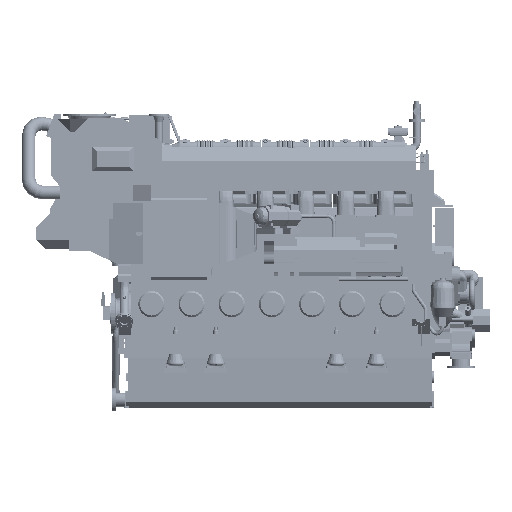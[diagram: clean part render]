
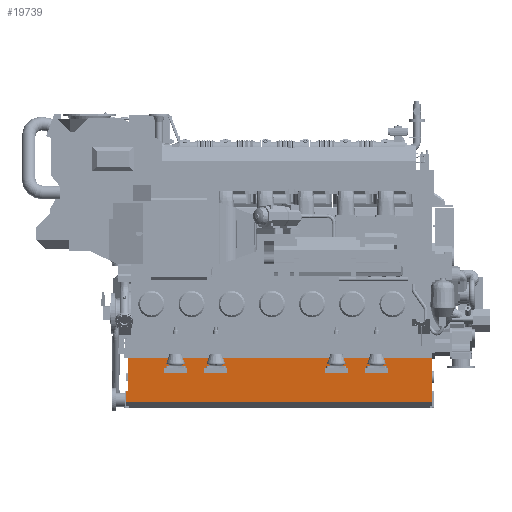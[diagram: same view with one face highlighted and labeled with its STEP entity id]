
A CAD part, front view. The second image highlights one B-rep face of the part: STEP entity #19739.
In plain terms, the highlighted planar face has unit normal (0, -0.999, -0.052).
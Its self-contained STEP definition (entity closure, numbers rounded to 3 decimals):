
#12578=FACE_OUTER_BOUND('',#62940,.T.);
#19739=ADVANCED_FACE('',(#12578),#28264,.T.);
#28264=PLANE('',#152563);
#33223=LINE('',#205550,#46311);
#33244=LINE('',#205618,#46332);
#33262=LINE('',#205663,#46350);
#33280=LINE('',#205724,#46368);
#33289=LINE('',#205740,#46377);
#33290=LINE('',#205741,#46378);
#46311=VECTOR('',#165733,1.);
#46332=VECTOR('',#165780,1.);
#46350=VECTOR('',#165808,1.);
#46368=VECTOR('',#165854,1.);
#46377=VECTOR('',#165869,1.);
#46378=VECTOR('',#165870,1.);
#62940=EDGE_LOOP('',(#73776,#73777,#73778,#73779,#73780,#73781));
#73776=ORIENTED_EDGE('',*,*,#127889,.F.);
#73777=ORIENTED_EDGE('',*,*,#127984,.F.);
#73778=ORIENTED_EDGE('',*,*,#127922,.T.);
#73779=ORIENTED_EDGE('',*,*,#127975,.T.);
#73780=ORIENTED_EDGE('',*,*,#127944,.F.);
#73781=ORIENTED_EDGE('',*,*,#127985,.F.);
#114265=VERTEX_POINT('',#205551);
#114266=VERTEX_POINT('',#205552);
#114298=VERTEX_POINT('',#205617);
#114299=VERTEX_POINT('',#205619);
#114309=VERTEX_POINT('',#205641);
#114320=VERTEX_POINT('',#205662);
#127889=EDGE_CURVE('',#114265,#114266,#33223,.T.);
#127922=EDGE_CURVE('',#114299,#114298,#33244,.T.);
#127944=EDGE_CURVE('',#114320,#114309,#33262,.T.);
#127975=EDGE_CURVE('',#114298,#114309,#33280,.T.);
#127984=EDGE_CURVE('',#114299,#114265,#33289,.T.);
#127985=EDGE_CURVE('',#114266,#114320,#33290,.T.);
#152563=AXIS2_PLACEMENT_3D('',#205742,#165871,#165872);
#165733=DIRECTION('',(0.,-0.052,0.999));
#165780=DIRECTION('',(0.,0.052,-0.999));
#165808=DIRECTION('',(0.,0.052,-0.999));
#165854=DIRECTION('',(1.,0.,0.));
#165869=DIRECTION('',(1.,0.,0.));
#165870=DIRECTION('',(1.,0.,0.));
#165871=DIRECTION('',(0.,-0.999,-0.052));
#165872=DIRECTION('',(0.,0.052,-0.999));
#205550=CARTESIAN_POINT('',(-3710.,-438.25,-545.));
#205551=CARTESIAN_POINT('',(-3710.,-417.179,-950.));
#205552=CARTESIAN_POINT('',(-3710.,-438.25,-545.));
#205617=CARTESIAN_POINT('',(-3730.,-410.5,-1078.395));
#205618=CARTESIAN_POINT('',(-3730.,-438.25,-545.));
#205619=CARTESIAN_POINT('',(-3730.,-417.179,-950.));
#205641=CARTESIAN_POINT('',(0.,-410.5,-1078.395));
#205662=CARTESIAN_POINT('',(0.,-438.25,-545.));
#205663=CARTESIAN_POINT('',(0.,-438.25,-545.));
#205724=CARTESIAN_POINT('',(-3730.,-410.5,-1078.395));
#205740=CARTESIAN_POINT('',(-3730.,-417.179,-950.));
#205741=CARTESIAN_POINT('',(-3730.,-438.25,-545.));
#205742=CARTESIAN_POINT('',(-3730.,-438.25,-545.));
